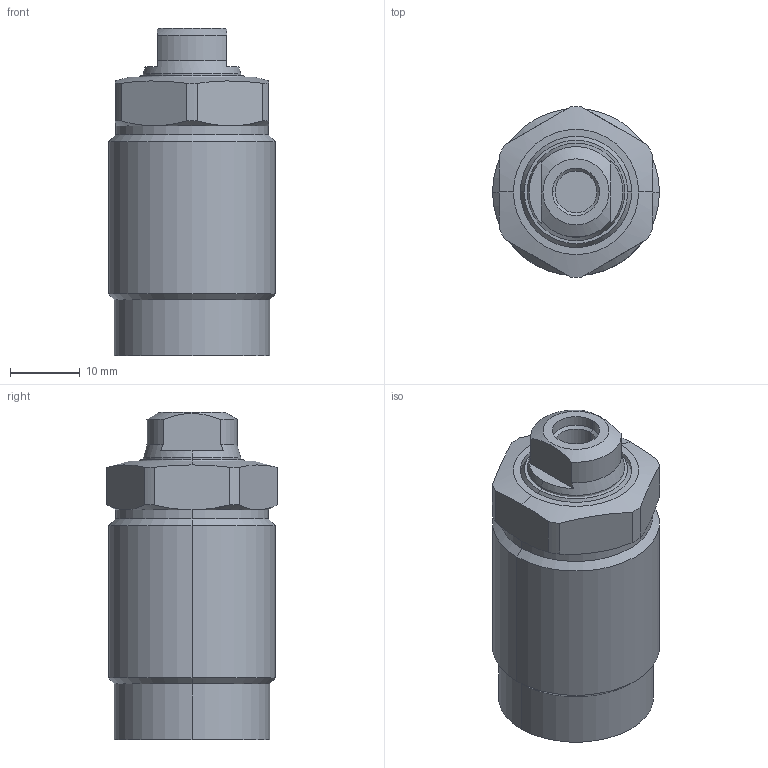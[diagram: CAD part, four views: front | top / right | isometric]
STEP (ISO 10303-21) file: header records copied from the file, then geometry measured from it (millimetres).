
FILE_DESCRIPTION((' '),'2;1');
FILE_NAME( 'TGP24-AM.x_t.stp', '2025-02-10T16:03:52', (' '), ('--- Datakit www.datakit.com---'), ' Datakit CrossCadWare V2024.1 Dec 21 2023', 'Mastercam 2025', ' ');
FILE_SCHEMA(('AUTOMOTIVE_DESIGN { 1 0 10303 214 1 1 1 1 }'));
Length unit declared in the file: millimetre
Products named in the file (1): TGP24-AM
Bounding box: 24 x 24.49 x 47 mm (x, y, z)
Volume: 19258.6 mm3; surface area: 5356.3 mm2
Topology: 2 solids, 2 shells, 82 faces, 187 edges, 116 vertices
Faces by surface type: cylinder 34, cone 22, plane 22, torus 4
Entity records: 2448 total; most frequent: CARTESIAN_POINT 556, DIRECTION 420, ORIENTED_EDGE 370, EDGE_CURVE 185, AXIS2_PLACEMENT_3D 180, VERTEX_POINT 116, CIRCLE 97, EDGE_LOOP 91
